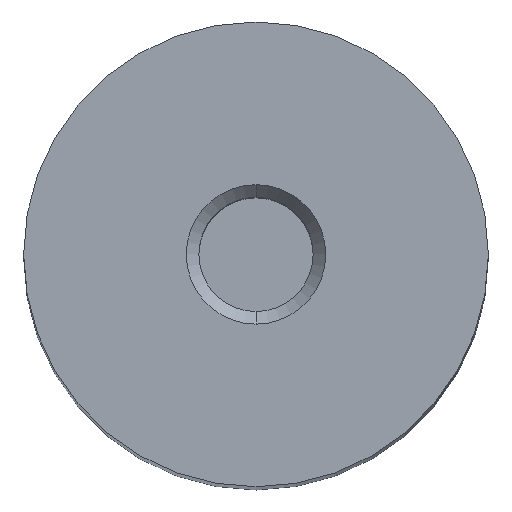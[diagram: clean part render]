
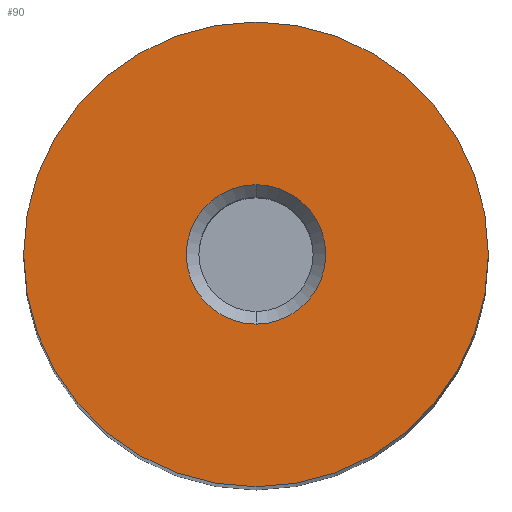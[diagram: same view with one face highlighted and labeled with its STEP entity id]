
A CAD part, top view. The second image highlights one B-rep face of the part: STEP entity #90.
In plain terms, the highlighted planar face has unit normal (0, 0, 1).
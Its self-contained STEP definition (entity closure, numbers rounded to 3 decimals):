
#90=ADVANCED_FACE('',(#148,#120),#306,.T.);
#120=FACE_OUTER_BOUND('',#158,.F.);
#148=FACE_BOUND('',#157,.F.);
#157=EDGE_LOOP('',(#201,#202));
#158=EDGE_LOOP('',(#203,#204));
#201=ORIENTED_EDGE('',*,*,#568,.T.);
#202=ORIENTED_EDGE('',*,*,#569,.T.);
#203=ORIENTED_EDGE('',*,*,#566,.F.);
#204=ORIENTED_EDGE('',*,*,#562,.F.);
#306=PLANE('',#715);
#562=EDGE_CURVE('',#671,#670,#620,.T.);
#566=EDGE_CURVE('',#670,#671,#622,.T.);
#568=EDGE_CURVE('',#667,#666,#624,.T.);
#569=EDGE_CURVE('',#666,#667,#625,.T.);
#620=CIRCLE('',#694,10.);
#622=CIRCLE('',#696,10.);
#624=CIRCLE('',#698,3.);
#625=CIRCLE('',#699,3.);
#666=VERTEX_POINT('',#936);
#667=VERTEX_POINT('',#937);
#670=VERTEX_POINT('',#940);
#671=VERTEX_POINT('',#941);
#694=AXIS2_PLACEMENT_3D('',#946,#767,#768);
#696=AXIS2_PLACEMENT_3D('',#950,#773,#774);
#698=AXIS2_PLACEMENT_3D('',#952,#777,#778);
#699=AXIS2_PLACEMENT_3D('',#953,#779,#780);
#715=AXIS2_PLACEMENT_3D('',#977,#819,#820);
#767=DIRECTION('',(0.,0.,1.));
#768=DIRECTION('',(0.,1.,0.));
#773=DIRECTION('',(0.,0.,1.));
#774=DIRECTION('',(0.,-1.,0.));
#777=DIRECTION('',(0.,0.,1.));
#778=DIRECTION('',(0.,1.,0.));
#779=DIRECTION('',(0.,0.,1.));
#780=DIRECTION('',(0.,-1.,0.));
#819=DIRECTION('',(0.,0.,1.));
#820=DIRECTION('',(1.,0.,0.));
#936=CARTESIAN_POINT('',(-45.,17.8,148.8));
#937=CARTESIAN_POINT('',(-45.,23.8,148.8));
#940=CARTESIAN_POINT('',(-45.,10.8,148.8));
#941=CARTESIAN_POINT('',(-45.,30.8,148.8));
#946=CARTESIAN_POINT('',(-45.,20.8,148.8));
#950=CARTESIAN_POINT('',(-45.,20.8,148.8));
#952=CARTESIAN_POINT('',(-45.,20.8,148.8));
#953=CARTESIAN_POINT('',(-45.,20.8,148.8));
#977=CARTESIAN_POINT('',(-55.2,10.6,148.8));
